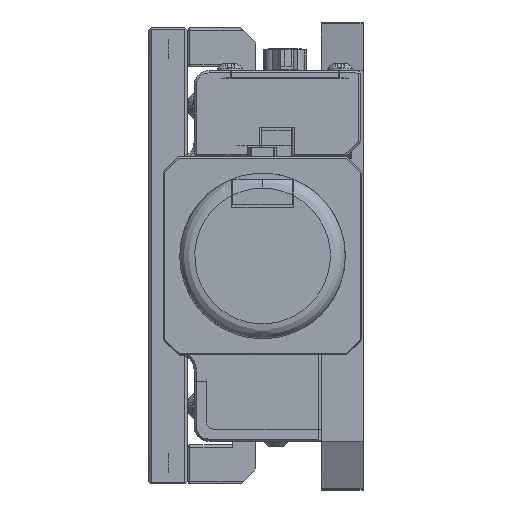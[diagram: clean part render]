
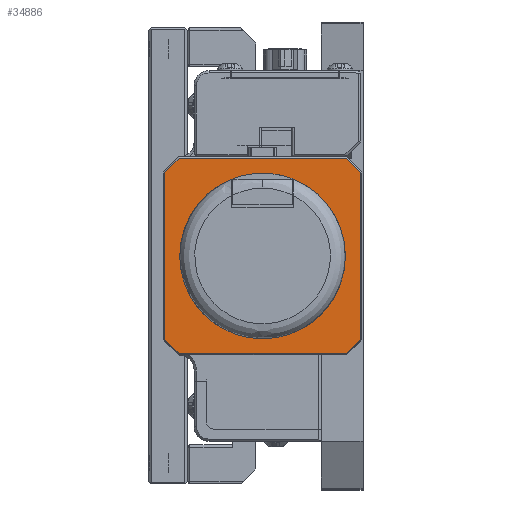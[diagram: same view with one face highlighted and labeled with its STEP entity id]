
A CAD part, left-side view. The second image highlights one B-rep face of the part: STEP entity #34886.
In plain terms, the highlighted planar face has unit normal (-1, 0, 0).
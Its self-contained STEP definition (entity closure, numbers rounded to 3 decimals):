
#154 = EDGE_CURVE ( 'NONE', #74687, #71522, #56880, .T. ) ;
#272 = EDGE_CURVE ( 'NONE', #72965, #74687, #5224, .T. ) ;
#307 = EDGE_CURVE ( 'NONE', #76171, #72965, #2949, .T. ) ;
#832 = EDGE_CURVE ( 'NONE', #42646, #76171, #73768, .T. ) ;
#862 = EDGE_CURVE ( 'NONE', #69125, #42646, #33192, .T. ) ;
#988 = EDGE_CURVE ( 'NONE', #77257, #69125, #32011, .T. ) ;
#1251 = EDGE_CURVE ( 'NONE', #78928, #77257, #40841, .T. ) ;
#1268 = EDGE_CURVE ( 'NONE', #71522, #78928, #36422, .T. ) ;
#1650 = VECTOR ( 'NONE', #86518, 1000. ) ;
#2949 = LINE ( 'NONE', #51709, #81927 ) ;
#5224 = LINE ( 'NONE', #56187, #41100 ) ;
#19556 = VECTOR ( 'NONE', #50439, 1000. ) ;
#20306 = AXIS2_PLACEMENT_3D ( 'NONE', #80277, #79746, #79633 ) ;
#23616 = ORIENTED_EDGE ( 'NONE', *, *, #1268, .F. ) ;
#29893 = CARTESIAN_POINT ( 'NONE',  ( -120.65, 38.947, 18.542 ) ) ;
#32011 = LINE ( 'NONE', #73464, #70307 ) ;
#33192 = LINE ( 'NONE', #86184, #1650 ) ;
#34276 = CARTESIAN_POINT ( 'NONE',  ( -120.65, 0.572, 21.568 ) ) ;
#34886 = ADVANCED_FACE ( 'NONE', ( #72061 ), #80412, .T. ) ;
#36422 = LINE ( 'NONE', #49700, #72501 ) ;
#37819 = VECTOR ( 'NONE', #76982, 1000. ) ;
#39850 = VECTOR ( 'NONE', #90198, 1000. ) ;
#40841 = LINE ( 'NONE', #50320, #19556 ) ;
#41100 = VECTOR ( 'NONE', #56940, 1000. ) ;
#42134 = CARTESIAN_POINT ( 'NONE',  ( -120.65, 0.572, 56.918 ) ) ;
#42646 = VERTEX_POINT ( 'NONE', #42134 ) ;
#46234 = ORIENTED_EDGE ( 'NONE', *, *, #1251, .F. ) ;
#48421 = CARTESIAN_POINT ( 'NONE',  ( -120.65, 3.598, 18.542 ) ) ;
#49685 = DIRECTION ( 'NONE',  ( 0., 0., 1. ) ) ;
#49700 = CARTESIAN_POINT ( 'NONE',  ( -120.65, 41.974, 18.288 ) ) ;
#50320 = CARTESIAN_POINT ( 'NONE',  ( -120.65, 19.505, 79.386 ) ) ;
#50439 = DIRECTION ( 'NONE',  ( 0., -0.707, 0.707 ) ) ;
#51206 = DIRECTION ( 'NONE',  ( 0., 0.707, -0.707 ) ) ;
#51709 = CARTESIAN_POINT ( 'NONE',  ( -120.65, -18.87, 41.01 ) ) ;
#56187 = CARTESIAN_POINT ( 'NONE',  ( -120.65, 0.318, 18.542 ) ) ;
#56880 = LINE ( 'NONE', #77186, #37819 ) ;
#56940 = DIRECTION ( 'NONE',  ( 0., 1., 0. ) ) ;
#57230 = ORIENTED_EDGE ( 'NONE', *, *, #988, .F. ) ;
#59074 = EDGE_LOOP ( 'NONE', ( #84845, #79989, #78674, #67698, #61464, #57230, #46234, #23616 ) ) ;
#61464 = ORIENTED_EDGE ( 'NONE', *, *, #862, .F. ) ;
#67698 = ORIENTED_EDGE ( 'NONE', *, *, #832, .F. ) ;
#69125 = VERTEX_POINT ( 'NONE', #77447 ) ;
#70307 = VECTOR ( 'NONE', #73369, 1000. ) ;
#70954 = CARTESIAN_POINT ( 'NONE',  ( -120.65, 41.974, 21.568 ) ) ;
#71522 = VERTEX_POINT ( 'NONE', #70954 ) ;
#72061 = FACE_OUTER_BOUND ( 'NONE', #59074, .T. ) ;
#72501 = VECTOR ( 'NONE', #49685, 1000. ) ;
#72965 = VERTEX_POINT ( 'NONE', #48421 ) ;
#73369 = DIRECTION ( 'NONE',  ( 0., -1., 0. ) ) ;
#73464 = CARTESIAN_POINT ( 'NONE',  ( -120.65, 0.318, 59.944 ) ) ;
#73768 = LINE ( 'NONE', #89693, #39850 ) ;
#74217 = CARTESIAN_POINT ( 'NONE',  ( -120.65, 38.947, 59.944 ) ) ;
#74687 = VERTEX_POINT ( 'NONE', #29893 ) ;
#76171 = VERTEX_POINT ( 'NONE', #34276 ) ;
#76982 = DIRECTION ( 'NONE',  ( 0., 0.707, 0.707 ) ) ;
#77186 = CARTESIAN_POINT ( 'NONE',  ( -120.65, 40.46, 20.055 ) ) ;
#77257 = VERTEX_POINT ( 'NONE', #74217 ) ;
#77447 = CARTESIAN_POINT ( 'NONE',  ( -120.65, 3.598, 59.944 ) ) ;
#78674 = ORIENTED_EDGE ( 'NONE', *, *, #307, .F. ) ;
#78928 = VERTEX_POINT ( 'NONE', #79038 ) ;
#79038 = CARTESIAN_POINT ( 'NONE',  ( -120.65, 41.974, 56.918 ) ) ;
#79633 = DIRECTION ( 'NONE',  ( 0., 0., 1. ) ) ;
#79746 = DIRECTION ( 'NONE',  ( -1., 0., 0. ) ) ;
#79989 = ORIENTED_EDGE ( 'NONE', *, *, #272, .F. ) ;
#80277 = CARTESIAN_POINT ( 'NONE',  ( -120.65, 0.318, 60.198 ) ) ;
#80412 = PLANE ( 'NONE',  #20306 ) ;
#81927 = VECTOR ( 'NONE', #51206, 1000. ) ;
#84845 = ORIENTED_EDGE ( 'NONE', *, *, #154, .F. ) ;
#86184 = CARTESIAN_POINT ( 'NONE',  ( -120.65, 2.085, 58.431 ) ) ;
#86518 = DIRECTION ( 'NONE',  ( 0., -0.707, -0.707 ) ) ;
#89693 = CARTESIAN_POINT ( 'NONE',  ( -120.65, 0.572, 60.198 ) ) ;
#90198 = DIRECTION ( 'NONE',  ( 0., 0., -1. ) ) ;
